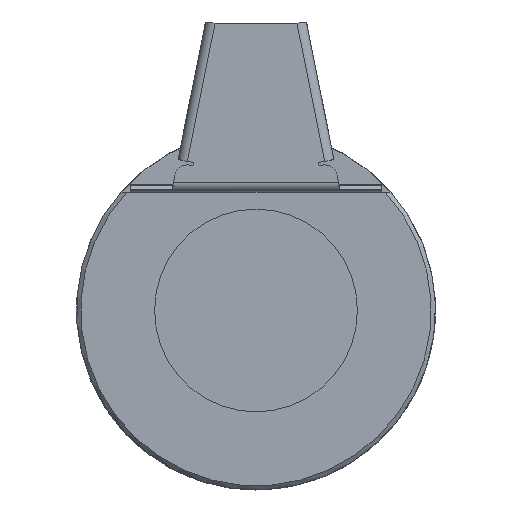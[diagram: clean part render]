
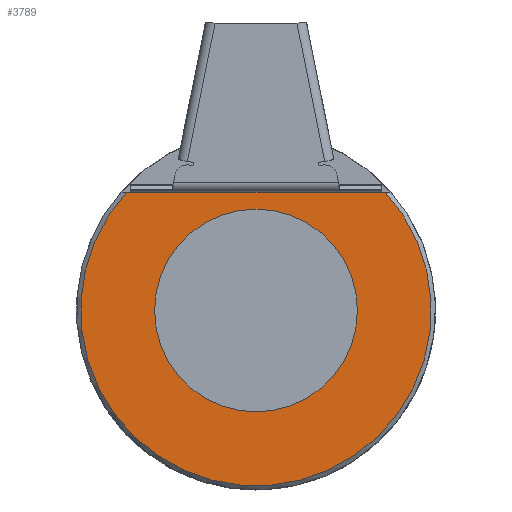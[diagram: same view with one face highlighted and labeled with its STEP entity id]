
A CAD part, left-side view. The second image highlights one B-rep face of the part: STEP entity #3789.
In plain terms, the highlighted planar face has unit normal (-1, 0, 0).
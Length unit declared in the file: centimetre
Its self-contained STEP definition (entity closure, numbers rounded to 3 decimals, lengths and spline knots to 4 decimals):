
#887=VECTOR('',#16149,1.);
#1087=LINE('',#4618,#887);
#1282=PLANE('',#4026);
#1417=CIRCLE('',#3993,2.4);
#1429=CIRCLE('',#4015,4.15);
#1523=EDGE_CURVE('',#3197,#3197,#1417,.T.);
#1576=EDGE_CURVE('',#3245,#3244,#1429,.T.);
#1582=EDGE_CURVE('',#3245,#3244,#1087,.T.);
#2076=ORIENTED_EDGE('',*,*,#1523,.T.);
#2077=ORIENTED_EDGE('',*,*,#1576,.F.);
#2078=ORIENTED_EDGE('',*,*,#1582,.T.);
#2960=EDGE_LOOP('',(#2076));
#2961=EDGE_LOOP('',(#2077,#2078));
#3197=VERTEX_POINT('',#4284);
#3244=VERTEX_POINT('',#4597);
#3245=VERTEX_POINT('',#4601);
#3544=FACE_BOUND('',#2960,.T.);
#3545=FACE_BOUND('',#2961,.T.);
#3789=ADVANCED_FACE('',(#3544,#3545),#1282,.T.);
#3993=AXIS2_PLACEMENT_3D('',#4283,#16068,#16069);
#4015=AXIS2_PLACEMENT_3D('',#4602,#16130,#16131);
#4026=AXIS2_PLACEMENT_3D('',#4619,#16150,$);
#4283=CARTESIAN_POINT('',(0.,0.,0.));
#4284=CARTESIAN_POINT('',(0.,0.,2.4));
#4597=CARTESIAN_POINT('',(0.,3.0631,2.8));
#4601=CARTESIAN_POINT('',(0.,-3.0631,2.8));
#4602=CARTESIAN_POINT('',(0.,0.,0.));
#4618=CARTESIAN_POINT('',(0.,2.775,2.8));
#4619=CARTESIAN_POINT('',(0.,0.,-1.825));
#16068=DIRECTION('',(1.,0.,0.));
#16069=DIRECTION('',(0.,0.,2.4));
#16130=DIRECTION('',(1.,0.,0.));
#16131=DIRECTION('',(0.,0.,-4.15));
#16149=DIRECTION('',(0.,1.,0.));
#16150=DIRECTION('',(-1.,0.,0.));
